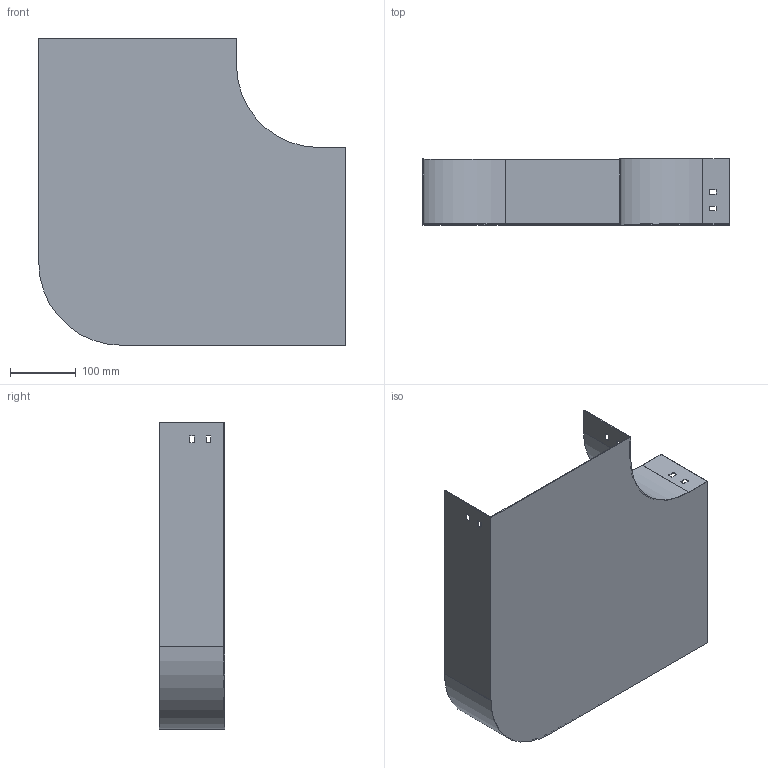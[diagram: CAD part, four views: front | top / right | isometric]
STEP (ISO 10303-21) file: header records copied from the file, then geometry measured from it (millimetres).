
FILE_DESCRIPTION (( 'STEP AP214' ), '1' );
FILE_NAME ('P9_301.step', '2025-07-16T09:20:47', ( '' ), ( '' ), 'SwSTEP 2.0', 'SolidWorks 2023', '' );
FILE_SCHEMA (( 'AUTOMOTIVE_DESIGN' ));
Length unit declared in the file: millimetre
Products named in the file (1): P9_301
Bounding box: 465 x 100 x 465 mm (x, y, z)
Volume: 452971.3 mm3; surface area: 607589.8 mm2
Topology: 1 solids, 1 shells, 50 faces, 144 edges, 96 vertices
Faces by surface type: plane 46, cylinder 4
Entity records: 1671 total; most frequent: CARTESIAN_POINT 291, ORIENTED_EDGE 288, DIRECTION 254, EDGE_CURVE 144, VECTOR 136, LINE 136, VERTEX_POINT 96, EDGE_LOOP 66
